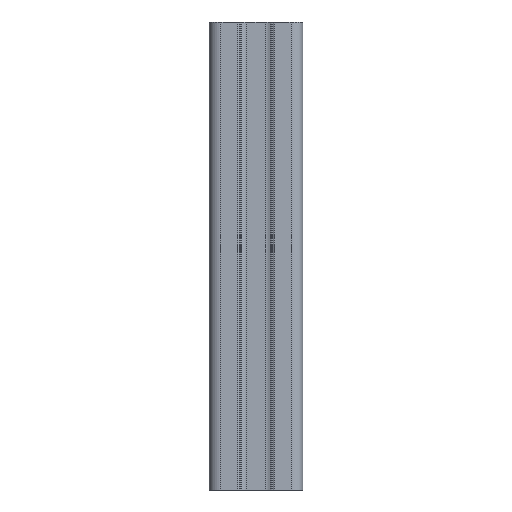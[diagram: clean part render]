
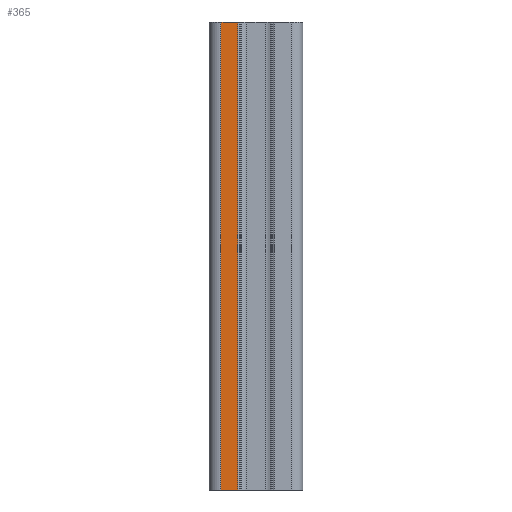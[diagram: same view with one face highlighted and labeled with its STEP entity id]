
A CAD part, front view. The second image highlights one B-rep face of the part: STEP entity #365.
In plain terms, the highlighted planar face has unit normal (0, -1, 0).
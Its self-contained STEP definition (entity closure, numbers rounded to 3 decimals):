
#307=CARTESIAN_POINT('',(-3.917,-9.991,100.0));
#308=VERTEX_POINT('',#307);
#316=CARTESIAN_POINT('',(-3.917,-9.991,0.0));
#317=VERTEX_POINT('',#316);
#318=CARTESIAN_POINT('',(-3.917,-9.991,0.0));
#319=DIRECTION('',(0.0,0.0,1.0));
#320=VECTOR('',#319,100.0);
#321=LINE('',#318,#320);
#322=EDGE_CURVE('',#317,#308,#321,.T.);
#335=CARTESIAN_POINT('',(-3.917,-9.991,0.0));
#336=DIRECTION('',(0.0,-1.0,0.0));
#337=DIRECTION('',(0.0,0.0,-1.0));
#338=AXIS2_PLACEMENT_3D('',#335,#336,#337);
#339=PLANE('',#338);
#340=CARTESIAN_POINT('',(-7.517,-9.991,100.0));
#341=VERTEX_POINT('',#340);
#342=CARTESIAN_POINT('',(-3.917,-9.991,100.0));
#343=DIRECTION('',(-1.0,0.0,0.0));
#344=VECTOR('',#343,3.6);
#345=LINE('',#342,#344);
#346=EDGE_CURVE('',#308,#341,#345,.T.);
#347=ORIENTED_EDGE('',*,*,#346,.T.);
#348=CARTESIAN_POINT('',(-7.517,-9.991,0.0));
#349=VERTEX_POINT('',#348);
#350=CARTESIAN_POINT('',(-7.517,-9.991,0.0));
#351=DIRECTION('',(0.0,0.0,1.0));
#352=VECTOR('',#351,100.0);
#353=LINE('',#350,#352);
#354=EDGE_CURVE('',#349,#341,#353,.T.);
#355=ORIENTED_EDGE('',*,*,#354,.F.);
#356=CARTESIAN_POINT('',(-7.517,-9.991,0.0));
#357=DIRECTION('',(1.0,0.0,0.0));
#358=VECTOR('',#357,3.6);
#359=LINE('',#356,#358);
#360=EDGE_CURVE('',#349,#317,#359,.T.);
#361=ORIENTED_EDGE('',*,*,#360,.T.);
#362=ORIENTED_EDGE('',*,*,#322,.T.);
#363=EDGE_LOOP('',(#347,#355,#361,#362));
#364=FACE_OUTER_BOUND('',#363,.T.);
#365=ADVANCED_FACE('',(#364),#339,.T.);
